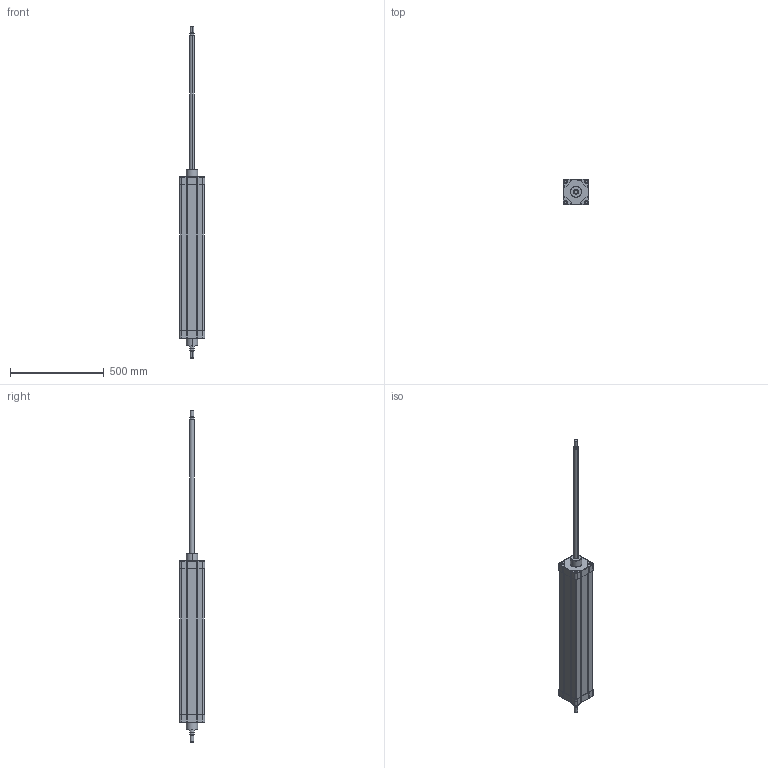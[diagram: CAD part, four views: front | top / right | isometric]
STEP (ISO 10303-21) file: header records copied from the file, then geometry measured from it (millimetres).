
FILE_DESCRIPTION((''),'2;1');
FILE_NAME('N11M41250700.stp','2010-01-06T23:14:14',('B. Petkovic 2010'),('AZ PNEUMATICA S.r.l.'),'Mechanical Desktop 2006','Mechanical Desktop 2006','Via Marco Biagi 6, I-20020 Misinto(MI) Italy, azpneu@tin.it');
FILE_SCHEMA(('CONFIG_CONTROL_DESIGN'));
Length unit declared in the file: millimetre
Products named in the file (2): N11M41000700; CILINDAR
Assembly tree (1 placements, depth 2):
  N11M41000700
    CILINDAR
Bounding box: 136 x 136 x 1770 mm (x, y, z)
Volume: 15365182.1 mm3; surface area: 672062.4 mm2
Topology: 1 solids, 1 shells, 713 faces, 1829 edges, 1164 vertices
Faces by surface type: cylinder 324, plane 297, torus 44, bspline 40, cone 8
Entity records: 23644 total; most frequent: CARTESIAN_POINT 5668, DIRECTION 3987, ORIENTED_EDGE 3658, EDGE_CURVE 1829, AXIS2_PLACEMENT_3D 1491, VERTEX_POINT 1164, VECTOR 1005, LINE 1005
